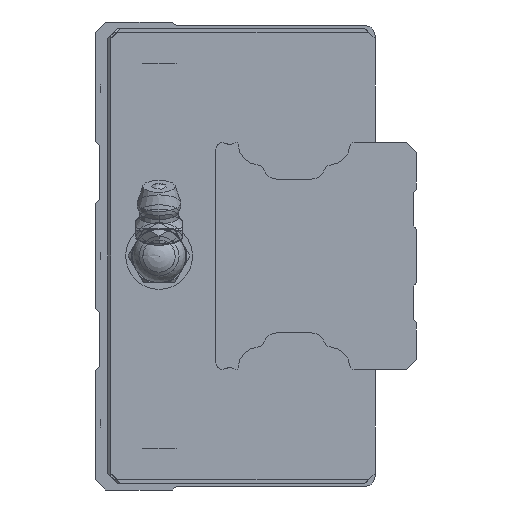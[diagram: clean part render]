
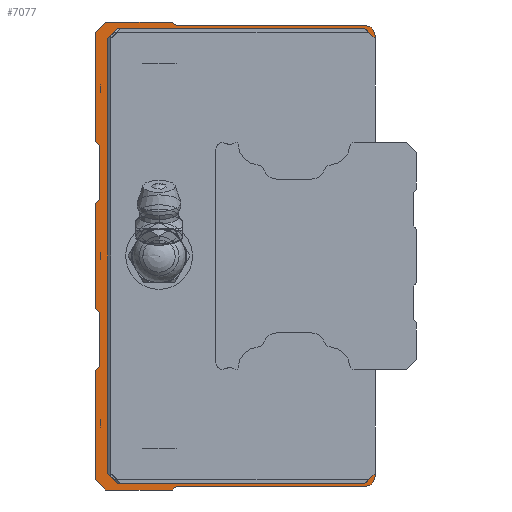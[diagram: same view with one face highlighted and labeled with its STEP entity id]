
A CAD part, left-side view. The second image highlights one B-rep face of the part: STEP entity #7077.
In plain terms, the highlighted planar face has unit normal (-1, 0, 0).
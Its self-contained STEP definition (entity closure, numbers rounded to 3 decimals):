
#78=LINE('',#11078,#556);
#87=LINE('',#11098,#565);
#96=LINE('',#11116,#574);
#122=LINE('',#11172,#600);
#130=LINE('',#11189,#608);
#138=LINE('',#11206,#616);
#163=LINE('',#11257,#641);
#168=LINE('',#11267,#646);
#172=LINE('',#11274,#650);
#176=LINE('',#11281,#654);
#180=LINE('',#11290,#658);
#183=LINE('',#11296,#661);
#187=LINE('',#11308,#665);
#191=LINE('',#11323,#669);
#195=LINE('',#11335,#673);
#198=LINE('',#11341,#676);
#201=LINE('',#11347,#679);
#204=LINE('',#11357,#682);
#207=LINE('',#11363,#685);
#211=LINE('',#11375,#689);
#215=LINE('',#11387,#693);
#218=LINE('',#11397,#696);
#221=LINE('',#11403,#699);
#225=LINE('',#11415,#703);
#229=LINE('',#11427,#707);
#232=LINE('',#11437,#710);
#556=VECTOR('',#8581,1000.);
#565=VECTOR('',#8596,1000.);
#574=VECTOR('',#8609,1000.);
#600=VECTOR('',#8649,1000.);
#608=VECTOR('',#8661,1000.);
#616=VECTOR('',#8675,1000.);
#641=VECTOR('',#8716,1000.);
#646=VECTOR('',#8723,1000.);
#650=VECTOR('',#8729,1000.);
#654=VECTOR('',#8735,1000.);
#658=VECTOR('',#8741,1000.);
#661=VECTOR('',#8746,1000.);
#665=VECTOR('',#8758,1000.);
#669=VECTOR('',#8776,1000.);
#673=VECTOR('',#8788,1000.);
#676=VECTOR('',#8793,1000.);
#679=VECTOR('',#8798,1000.);
#682=VECTOR('',#8807,1000.);
#685=VECTOR('',#8812,1000.);
#689=VECTOR('',#8824,1000.);
#693=VECTOR('',#8836,1000.);
#696=VECTOR('',#8845,1000.);
#699=VECTOR('',#8850,1000.);
#703=VECTOR('',#8862,1000.);
#707=VECTOR('',#8874,1000.);
#710=VECTOR('',#8883,1000.);
#1066=PLANE('',#7607);
#1597=CIRCLE('',#7563,0.5);
#1599=CIRCLE('',#7567,1.5);
#1601=CIRCLE('',#7570,1.5);
#1603=CIRCLE('',#7574,0.5);
#1607=CIRCLE('',#7584,0.5);
#1609=CIRCLE('',#7588,0.5);
#1613=CIRCLE('',#7596,0.5);
#1615=CIRCLE('',#7600,0.5);
#2347=ORIENTED_EDGE('',*,*,#4029,.T.);
#2348=ORIENTED_EDGE('',*,*,#4038,.T.);
#2349=ORIENTED_EDGE('',*,*,#4113,.F.);
#2350=ORIENTED_EDGE('',*,*,#4137,.F.);
#2351=ORIENTED_EDGE('',*,*,#4134,.F.);
#2352=ORIENTED_EDGE('',*,*,#4131,.T.);
#2353=ORIENTED_EDGE('',*,*,#4128,.F.);
#2354=ORIENTED_EDGE('',*,*,#4125,.F.);
#2355=ORIENTED_EDGE('',*,*,#4121,.F.);
#2356=ORIENTED_EDGE('',*,*,#4199,.F.);
#2357=ORIENTED_EDGE('',*,*,#4194,.F.);
#2358=ORIENTED_EDGE('',*,*,#4191,.T.);
#2359=ORIENTED_EDGE('',*,*,#4188,.F.);
#2360=ORIENTED_EDGE('',*,*,#4185,.T.);
#2361=ORIENTED_EDGE('',*,*,#4182,.F.);
#2362=ORIENTED_EDGE('',*,*,#4179,.F.);
#2363=ORIENTED_EDGE('',*,*,#4174,.F.);
#2364=ORIENTED_EDGE('',*,*,#4171,.T.);
#2365=ORIENTED_EDGE('',*,*,#4168,.F.);
#2366=ORIENTED_EDGE('',*,*,#4165,.T.);
#2367=ORIENTED_EDGE('',*,*,#4162,.F.);
#2368=ORIENTED_EDGE('',*,*,#4159,.F.);
#2369=ORIENTED_EDGE('',*,*,#4154,.F.);
#2370=ORIENTED_EDGE('',*,*,#4151,.F.);
#2371=ORIENTED_EDGE('',*,*,#4148,.F.);
#2372=ORIENTED_EDGE('',*,*,#4145,.T.);
#2373=ORIENTED_EDGE('',*,*,#4142,.F.);
#2374=ORIENTED_EDGE('',*,*,#4139,.F.);
#2375=ORIENTED_EDGE('',*,*,#4117,.F.);
#2376=ORIENTED_EDGE('',*,*,#4073,.T.);
#2377=ORIENTED_EDGE('',*,*,#4082,.T.);
#2378=ORIENTED_EDGE('',*,*,#4065,.T.);
#2379=ORIENTED_EDGE('',*,*,#4108,.T.);
#2380=ORIENTED_EDGE('',*,*,#4019,.T.);
#4019=EDGE_CURVE('',#5003,#5002,#78,.T.);
#4029=EDGE_CURVE('',#5002,#5010,#87,.T.);
#4038=EDGE_CURVE('',#5010,#5017,#96,.T.);
#4065=EDGE_CURVE('',#5041,#5040,#122,.T.);
#4073=EDGE_CURVE('',#5048,#5047,#130,.T.);
#4082=EDGE_CURVE('',#5047,#5041,#138,.T.);
#4108=EDGE_CURVE('',#5040,#5003,#163,.T.);
#4113=EDGE_CURVE('',#5075,#5017,#168,.T.);
#4117=EDGE_CURVE('',#5048,#5078,#172,.T.);
#4121=EDGE_CURVE('',#5080,#5081,#176,.T.);
#4125=EDGE_CURVE('',#5081,#5084,#180,.T.);
#4128=EDGE_CURVE('',#5084,#5086,#183,.T.);
#4131=EDGE_CURVE('',#5088,#5086,#1597,.T.);
#4134=EDGE_CURVE('',#5088,#5090,#187,.T.);
#4137=EDGE_CURVE('',#5090,#5075,#1599,.T.);
#4139=EDGE_CURVE('',#5078,#5092,#1601,.T.);
#4142=EDGE_CURVE('',#5092,#5094,#191,.T.);
#4145=EDGE_CURVE('',#5096,#5094,#1603,.T.);
#4148=EDGE_CURVE('',#5096,#5098,#195,.T.);
#4151=EDGE_CURVE('',#5098,#5100,#198,.T.);
#4154=EDGE_CURVE('',#5100,#5102,#201,.T.);
#4159=EDGE_CURVE('',#5102,#5106,#204,.T.);
#4162=EDGE_CURVE('',#5106,#5108,#207,.T.);
#4165=EDGE_CURVE('',#5110,#5108,#1607,.T.);
#4168=EDGE_CURVE('',#5110,#5112,#211,.T.);
#4171=EDGE_CURVE('',#5114,#5112,#1609,.T.);
#4174=EDGE_CURVE('',#5114,#5116,#215,.T.);
#4179=EDGE_CURVE('',#5116,#5120,#218,.T.);
#4182=EDGE_CURVE('',#5120,#5122,#221,.T.);
#4185=EDGE_CURVE('',#5124,#5122,#1613,.T.);
#4188=EDGE_CURVE('',#5124,#5126,#225,.T.);
#4191=EDGE_CURVE('',#5128,#5126,#1615,.T.);
#4194=EDGE_CURVE('',#5128,#5130,#229,.T.);
#4199=EDGE_CURVE('',#5130,#5080,#232,.T.);
#5002=VERTEX_POINT('',#11077);
#5003=VERTEX_POINT('',#11079);
#5010=VERTEX_POINT('',#11097);
#5017=VERTEX_POINT('',#11115);
#5040=VERTEX_POINT('',#11171);
#5041=VERTEX_POINT('',#11173);
#5047=VERTEX_POINT('',#11188);
#5048=VERTEX_POINT('',#11190);
#5075=VERTEX_POINT('',#11266);
#5078=VERTEX_POINT('',#11275);
#5080=VERTEX_POINT('',#11282);
#5081=VERTEX_POINT('',#11283);
#5084=VERTEX_POINT('',#11291);
#5086=VERTEX_POINT('',#11297);
#5088=VERTEX_POINT('',#11303);
#5090=VERTEX_POINT('',#11309);
#5092=VERTEX_POINT('',#11318);
#5094=VERTEX_POINT('',#11324);
#5096=VERTEX_POINT('',#11330);
#5098=VERTEX_POINT('',#11336);
#5100=VERTEX_POINT('',#11342);
#5102=VERTEX_POINT('',#11348);
#5106=VERTEX_POINT('',#11358);
#5108=VERTEX_POINT('',#11364);
#5110=VERTEX_POINT('',#11370);
#5112=VERTEX_POINT('',#11376);
#5114=VERTEX_POINT('',#11382);
#5116=VERTEX_POINT('',#11388);
#5120=VERTEX_POINT('',#11398);
#5122=VERTEX_POINT('',#11404);
#5124=VERTEX_POINT('',#11410);
#5126=VERTEX_POINT('',#11416);
#5128=VERTEX_POINT('',#11422);
#5130=VERTEX_POINT('',#11428);
#5783=EDGE_LOOP('',(#2347,#2348,#2349,#2350,#2351,#2352,#2353,#2354,#2355,
#2356,#2357,#2358,#2359,#2360,#2361,#2362,#2363,#2364,#2365,#2366,#2367,
#2368,#2369,#2370,#2371,#2372,#2373,#2374,#2375,#2376,#2377,#2378,#2379,
#2380));
#6424=FACE_BOUND('',#5783,.T.);
#7077=ADVANCED_FACE('',(#6424),#1066,.F.);
#7563=AXIS2_PLACEMENT_3D('',#11302,#8751,#8752);
#7567=AXIS2_PLACEMENT_3D('',#11314,#8763,#8764);
#7570=AXIS2_PLACEMENT_3D('',#11317,#8769,#8770);
#7574=AXIS2_PLACEMENT_3D('',#11329,#8781,#8782);
#7584=AXIS2_PLACEMENT_3D('',#11369,#8817,#8818);
#7588=AXIS2_PLACEMENT_3D('',#11381,#8829,#8830);
#7596=AXIS2_PLACEMENT_3D('',#11409,#8855,#8856);
#7600=AXIS2_PLACEMENT_3D('',#11421,#8867,#8868);
#7607=AXIS2_PLACEMENT_3D('',#11440,#8887,#8888);
#8581=DIRECTION('',(0.,-0.707,0.707));
#8596=DIRECTION('',(0.,-1.,0.));
#8609=DIRECTION('',(0.,-0.707,-0.707));
#8649=DIRECTION('',(0.,0.707,0.707));
#8661=DIRECTION('',(0.,0.707,-0.707));
#8675=DIRECTION('',(0.,1.,0.));
#8716=DIRECTION('',(0.,0.,1.));
#8723=DIRECTION('',(0.,0.,-1.));
#8729=DIRECTION('',(0.,0.,-1.));
#8735=DIRECTION('',(0.,-0.707,0.707));
#8741=DIRECTION('',(0.,-1.,0.));
#8746=DIRECTION('',(0.,-0.707,-0.707));
#8751=DIRECTION('',(1.,0.,0.));
#8752=DIRECTION('',(0.,0.,-1.));
#8758=DIRECTION('',(0.,-1.,0.));
#8763=DIRECTION('',(1.,0.,0.));
#8764=DIRECTION('',(0.,0.,-1.));
#8769=DIRECTION('',(1.,0.,0.));
#8770=DIRECTION('',(0.,0.,-1.));
#8776=DIRECTION('',(0.,1.,0.));
#8781=DIRECTION('',(1.,0.,0.));
#8782=DIRECTION('',(0.,0.,-1.));
#8788=DIRECTION('',(0.,0.707,-0.707));
#8793=DIRECTION('',(0.,1.,0.));
#8798=DIRECTION('',(0.,0.707,0.707));
#8807=DIRECTION('',(0.,0.,1.));
#8812=DIRECTION('',(0.,-0.707,0.707));
#8817=DIRECTION('',(1.,0.,0.));
#8818=DIRECTION('',(0.,0.,-1.));
#8824=DIRECTION('',(0.,0.,1.));
#8829=DIRECTION('',(1.,0.,0.));
#8830=DIRECTION('',(0.,0.,-1.));
#8836=DIRECTION('',(0.,0.707,0.707));
#8845=DIRECTION('',(0.,0.,1.));
#8850=DIRECTION('',(0.,-0.707,0.707));
#8855=DIRECTION('',(1.,0.,0.));
#8856=DIRECTION('',(0.,0.,-1.));
#8862=DIRECTION('',(0.,0.,1.));
#8867=DIRECTION('',(1.,0.,0.));
#8868=DIRECTION('',(0.,0.,-1.));
#8874=DIRECTION('',(0.,0.707,0.707));
#8883=DIRECTION('',(0.,0.,1.));
#8887=DIRECTION('',(1.,0.,0.));
#8888=DIRECTION('',(0.,0.,-1.));
#11077=CARTESIAN_POINT('',(-40.25,38.5,34.));
#11078=CARTESIAN_POINT('',(-40.25,40.,32.5));
#11079=CARTESIAN_POINT('',(-40.25,40.,32.5));
#11097=CARTESIAN_POINT('',(-40.25,1.5,34.));
#11098=CARTESIAN_POINT('',(-40.25,38.5,34.));
#11115=CARTESIAN_POINT('',(-40.25,0.,32.5));
#11116=CARTESIAN_POINT('',(-40.25,1.5,34.));
#11171=CARTESIAN_POINT('',(-40.25,40.,-32.5));
#11172=CARTESIAN_POINT('',(-40.25,38.5,-34.));
#11173=CARTESIAN_POINT('',(-40.25,38.5,-34.));
#11188=CARTESIAN_POINT('',(-40.25,1.5,-34.));
#11189=CARTESIAN_POINT('',(-40.25,0.,-32.5));
#11190=CARTESIAN_POINT('',(-40.25,0.,-32.5));
#11206=CARTESIAN_POINT('',(-40.25,1.5,-34.));
#11257=CARTESIAN_POINT('',(-40.25,40.,-32.5));
#11266=CARTESIAN_POINT('',(-40.25,0.,33.));
#11267=CARTESIAN_POINT('',(-40.25,0.,33.));
#11274=CARTESIAN_POINT('',(-40.25,0.,33.));
#11275=CARTESIAN_POINT('',(-40.25,0.,-33.));
#11281=CARTESIAN_POINT('',(-40.25,41.8,33.5));
#11282=CARTESIAN_POINT('',(-40.25,41.8,33.5));
#11283=CARTESIAN_POINT('',(-40.25,40.3,35.));
#11290=CARTESIAN_POINT('',(-40.25,40.3,35.));
#11291=CARTESIAN_POINT('',(-40.25,30.3,35.));
#11296=CARTESIAN_POINT('',(-40.25,30.3,35.));
#11297=CARTESIAN_POINT('',(-40.25,29.946,34.646));
#11302=CARTESIAN_POINT('',(-40.25,29.593,35.));
#11303=CARTESIAN_POINT('',(-40.25,29.593,34.5));
#11308=CARTESIAN_POINT('',(-40.25,29.593,34.5));
#11309=CARTESIAN_POINT('',(-40.25,1.5,34.5));
#11314=CARTESIAN_POINT('',(-40.25,1.5,33.));
#11317=CARTESIAN_POINT('',(-40.25,1.5,-33.));
#11318=CARTESIAN_POINT('',(-40.25,1.5,-34.5));
#11323=CARTESIAN_POINT('',(-40.25,1.5,-34.5));
#11324=CARTESIAN_POINT('',(-40.25,29.593,-34.5));
#11329=CARTESIAN_POINT('',(-40.25,29.593,-35.));
#11330=CARTESIAN_POINT('',(-40.25,29.946,-34.646));
#11335=CARTESIAN_POINT('',(-40.25,29.946,-34.646));
#11336=CARTESIAN_POINT('',(-40.25,30.3,-35.));
#11341=CARTESIAN_POINT('',(-40.25,30.3,-35.));
#11342=CARTESIAN_POINT('',(-40.25,40.3,-35.));
#11347=CARTESIAN_POINT('',(-40.25,40.3,-35.));
#11348=CARTESIAN_POINT('',(-40.25,41.8,-33.5));
#11357=CARTESIAN_POINT('',(-40.25,41.8,-33.5));
#11358=CARTESIAN_POINT('',(-40.25,41.8,-17.1));
#11363=CARTESIAN_POINT('',(-40.25,41.8,-17.1));
#11364=CARTESIAN_POINT('',(-40.25,41.346,-16.646));
#11369=CARTESIAN_POINT('',(-40.25,41.7,-16.293));
#11370=CARTESIAN_POINT('',(-40.25,41.2,-16.293));
#11375=CARTESIAN_POINT('',(-40.25,41.2,-16.293));
#11376=CARTESIAN_POINT('',(-40.25,41.2,-8.707));
#11381=CARTESIAN_POINT('',(-40.25,41.7,-8.707));
#11382=CARTESIAN_POINT('',(-40.25,41.346,-8.354));
#11387=CARTESIAN_POINT('',(-40.25,41.346,-8.354));
#11388=CARTESIAN_POINT('',(-40.25,41.8,-7.9));
#11397=CARTESIAN_POINT('',(-40.25,41.8,-7.9));
#11398=CARTESIAN_POINT('',(-40.25,41.8,7.9));
#11403=CARTESIAN_POINT('',(-40.25,41.8,7.9));
#11404=CARTESIAN_POINT('',(-40.25,41.346,8.354));
#11409=CARTESIAN_POINT('',(-40.25,41.7,8.707));
#11410=CARTESIAN_POINT('',(-40.25,41.2,8.707));
#11415=CARTESIAN_POINT('',(-40.25,41.2,8.707));
#11416=CARTESIAN_POINT('',(-40.25,41.2,16.293));
#11421=CARTESIAN_POINT('',(-40.25,41.7,16.293));
#11422=CARTESIAN_POINT('',(-40.25,41.346,16.646));
#11427=CARTESIAN_POINT('',(-40.25,41.346,16.646));
#11428=CARTESIAN_POINT('',(-40.25,41.8,17.1));
#11437=CARTESIAN_POINT('',(-40.25,41.8,17.1));
#11440=CARTESIAN_POINT('',(-40.25,29.593,35.));
